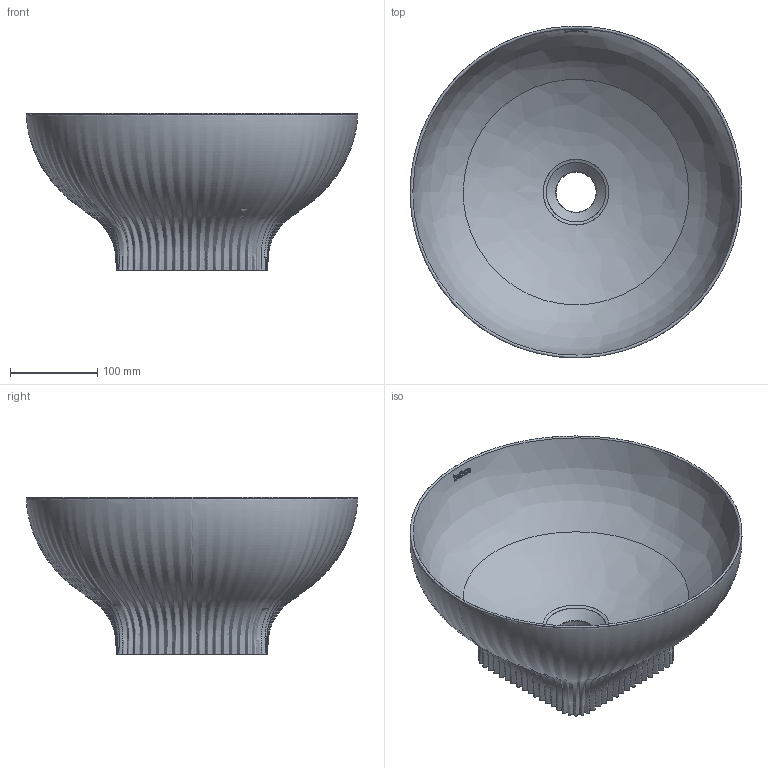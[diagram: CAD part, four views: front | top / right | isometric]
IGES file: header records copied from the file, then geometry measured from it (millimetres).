
Global section: file name: C:\Users\hp\Documents\6053_Cervino_Circular.igs; native system: Rhinoceros ( Sep 10 2024 ); preprocessor: Trout Lake IGES 012 Sep 10 2024; date: 241015.124837; units: millimetre
Bounding box: 379.94 x 379.81 x 180 mm (x, y, z)
Surface area: 444833 mm2 (no closed solid volume)
Topology: 0 solids, 0 shells, 110 faces, 5567 edges, 5553 vertices
Faces by surface type: bspline 110
